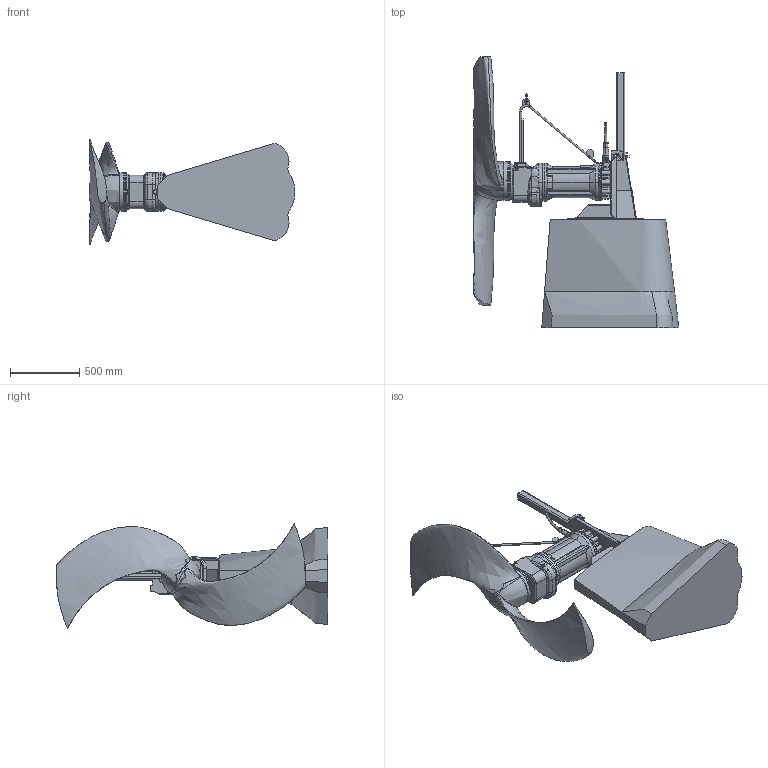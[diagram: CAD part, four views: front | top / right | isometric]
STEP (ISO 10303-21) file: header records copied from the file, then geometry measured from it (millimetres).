
FILE_DESCRIPTION (( 'STEP AP214' ), '1' );
FILE_NAME ('XSB1800 CP 780.STEP', '2013-04-15T08:17:20', ( 'HP' ), ( '' ), 'SwSTEP 2.0', 'SolidWorks 2011', '' );
FILE_SCHEMA (( 'AUTOMOTIVE_DESIGN' ));
Products named in the file (1): XSB1800 CP 780
Bounding box: 1489.61 x 1966.33 x 755.58 mm (x, y, z)
Volume: 310355364.8 mm3; surface area: 5967432 mm2
Topology: 1 solids, 1 shells, 1730 faces, 4311 edges, 2531 vertices
Faces by surface type: bspline 510, plane 441, cylinder 378, torus 259, cone 76, sphere 66
Entity records: 422209 total; most frequent: CARTESIAN_POINT 384802, ORIENTED_EDGE 8460, DIRECTION 7151, EDGE_CURVE 4230, AXIS2_PLACEMENT_3D 2865, VERTEX_POINT 2526, EDGE_LOOP 1790, FACE_OUTER_BOUND 1730
